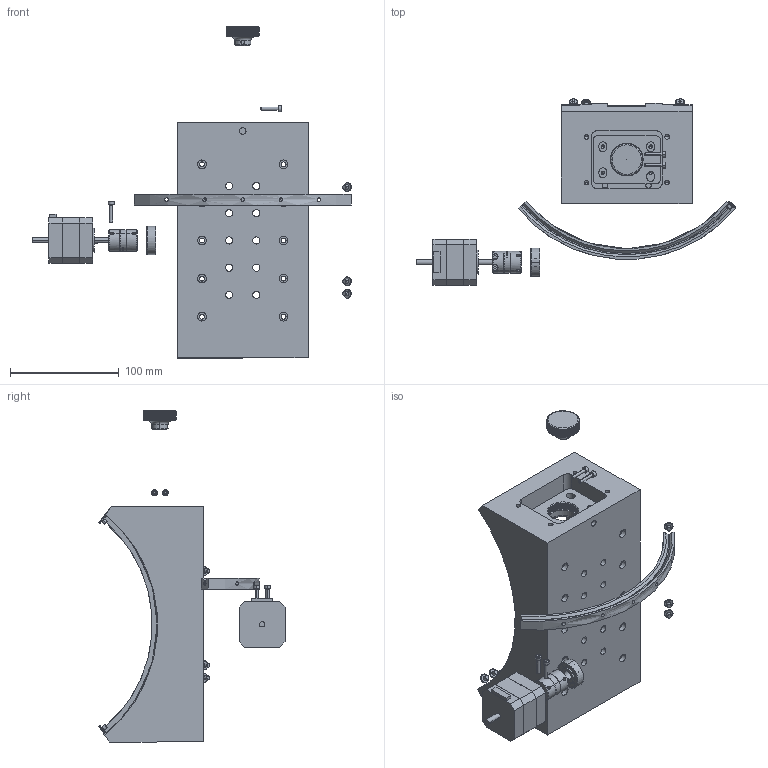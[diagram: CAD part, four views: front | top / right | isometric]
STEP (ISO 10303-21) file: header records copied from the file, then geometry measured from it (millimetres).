
FILE_DESCRIPTION (( 'STEP AP203' ), '1' );
FILE_NAME ('216詁樓.STEP', '2025-11-06T06:36:03', ( '' ), ( '' ), 'SwSTEP 2.0', 'SolidWorks 2023', '' );
FILE_SCHEMA (( 'CONFIG_CONTROL_DESIGN' ));
Length unit declared in the file: millimetre
Products named in the file (12): PT-GD216装配; PT-SD216-13轴承座; MVR3螺钉; PDV-42电机手轮; PT-SD216-07导轨左; 联轴器26-20-5-5; PT-SD216-01底座; SST43D2046; 216叠加; GB／T 276-94[深沟球轴承629-2Z]; GB／T 70．1-2000[内六角圆柱头螺钉M3×16]
Assembly tree (20 placements, depth 3):
  216叠加
    PT-GD216装配
      PT-SD216-07导轨左
      GB／T 276-94[深沟球轴承629-2Z]
      联轴器26-20-5-5
      SST43D2046
      MVR3螺钉  x3
      GB／T 70．1-2000[内六角圆柱头螺钉M3×16]  x2
    PT-GD216装配
      PT-SD216-01底座
      PT-SD216-13轴承座
      PDV-42电机手轮
      MVR3螺钉  x4
      GB／T 70．1-2000[内六角圆柱头螺钉M3×16]  x2
Bounding box: 292.75 x 170.95 x 305 mm (x, y, z)
Volume: 1169061.3 mm3; surface area: 185009.3 mm2
Topology: 18 solids, 18 shells, 2308 faces, 6467 edges, 4260 vertices
Faces by surface type: plane 1163, cylinder 571, bspline 355, sphere 80, torus 77, cone 62
Entity records: 97694 total; most frequent: CARTESIAN_POINT 43934, ORIENTED_EDGE 12166, DIRECTION 8943, EDGE_CURVE 6083, VERTEX_POINT 4038, VECTOR 3059, LINE 3059, AXIS2_PLACEMENT_3D 2942
